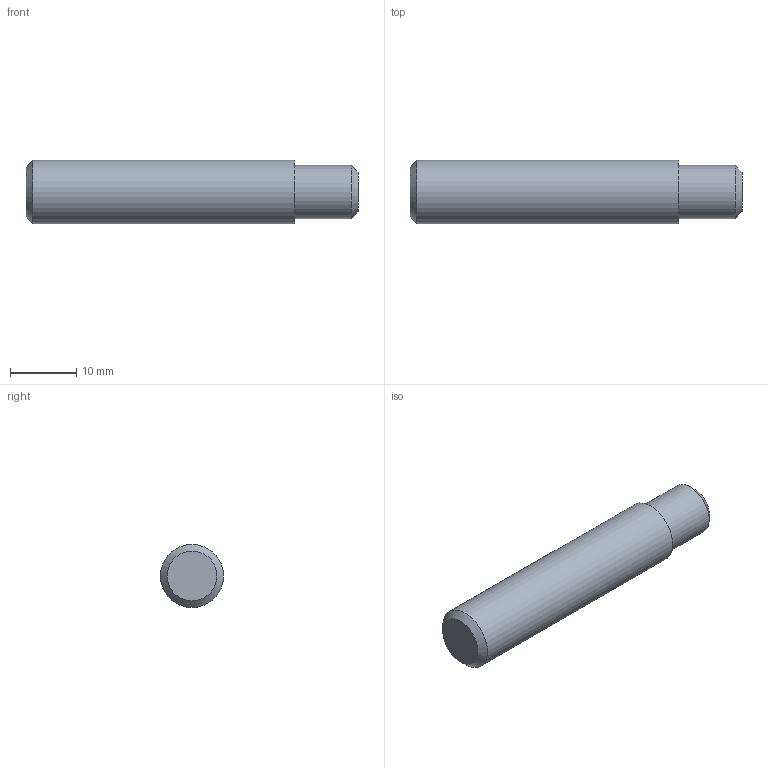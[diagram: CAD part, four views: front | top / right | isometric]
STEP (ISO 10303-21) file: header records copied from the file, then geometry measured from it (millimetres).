
FILE_DESCRIPTION(('STEP AP242'), '1');
FILE_NAME('26.06.2025.003 - Ðóêîÿòêà', '', ('UNSPECIFIED'), ('UNSPECIFIED'), 'C3D Converter', 'C3D Toolkit', '');
FILE_SCHEMA(('AP242_MANAGED_MODEL_BASED_3D_ENGINEERING_MIM_LF { 1 0 10303 442 1 1 4 }'));
Length unit declared in the file: millimetre
Products named in the file (1): СЦ.26.06.2025.003
Bounding box: 50 x 9.5 x 9.5 mm (x, y, z)
Volume: 3322.9 mm3; surface area: 1554.4 mm2
Topology: 1 solids, 1 shells, 7 faces, 10 edges, 6 vertices
Faces by surface type: plane 3, cylinder 2, cone 2
Full cylindrical faces by diameter (mm): 8 x1, 9.5 x1
Entity records: 245 total; most frequent: DIRECTION 28, CARTESIAN_POINT 20, AXIS2_PLACEMENT_3D 14, PROPERTY_DEFINITION 12, PROPERTY_DEFINITION_REPRESENTATION 12, REPRESENTATION 12, EDGE_LOOP 12, ORIENTED_EDGE 12
